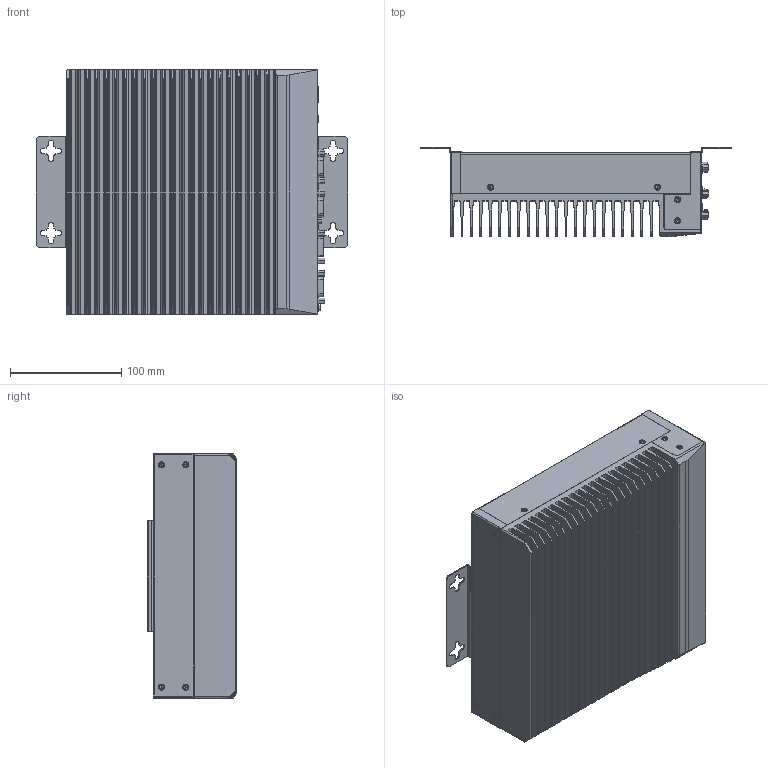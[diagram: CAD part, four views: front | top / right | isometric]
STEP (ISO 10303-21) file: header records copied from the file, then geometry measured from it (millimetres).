
FILE_DESCRIPTION (( 'STEP AP214' ), '1' );
FILE_NAME ('V326.STEP', '2023-08-18T03:24:52', ( '' ), ( '' ), 'SwSTEP 2.0', 'SolidWorks 2017', '' );
FILE_SCHEMA (( 'AUTOMOTIVE_DESIGN' ));
Length unit declared in the file: millimetre
Products named in the file (29): RXE-2100_ASM_247_ASM; COVER-SECC_45; MB-IO-1_ASM_18_ASM; 3PIN_2; DP-DP_2_ASM; GB823-88十字槽小盘头螺钉M3×5; USB-3-LAN_2; D-COM-H-9PIN_1; V326; COM-9PIN_2; USB-2_1; TOP_89; POWER-11_2; ZZJ_93; LED_2; GB／T95-2002平垫圈C级3×0．5; POWER-SWITCH-1111_2; MANIFOLD_SOLID_BREP_36774; VGA_2; AUDIO_1; 4P-POWER_3; RIGHT-COVER_34; GB_X2_FFFD_X0_T819_X2_FFFD_X0_1-2000_X2_02AEFFFD05B206F3_FFFD0377FFFD0776FFFD_X0_M3_X2_FFFDFFFD_X0_12; _X2_FFFDFFFD0138_X0_1; MB_ASM_12_ASM; IO-COVER_68; SUPPORT-SPCC_3; ZZJ_ASM_9_ASM; MANIFOLD_SOLID_BREP_36413
Assembly tree (67 placements, depth 5):
  V326
    RXE-2100_ASM_247_ASM
      TOP_89
      MB_ASM_12_ASM
        3PIN_2
        AUDIO_1
        USB-3-LAN_2  x3
        DP-DP_2_ASM
          MANIFOLD_SOLID_BREP_36413
          MANIFOLD_SOLID_BREP_36774
        VGA_2
        LED_2
        POWER-SWITCH-1111_2
        D-COM-H-9PIN_1
        POWER-11_2
      MB-IO-1_ASM_18_ASM
        COM-9PIN_2  x2
        4P-POWER_3
        USB-2_1  x2
      ZZJ_ASM_9_ASM
        ZZJ_93
      RIGHT-COVER_34
      IO-COVER_68
      COVER-SECC_45
      SUPPORT-SPCC_3  x2
    _X2_FFFDFFFD0138_X0_1  x14
    GB_X2_FFFD_X0_T819_X2_FFFD_X0_1-2000_X2_02AEFFFD05B206F3_FFFD0377FFFD0776FFFD_X0_M3_X2_FFFDFFFD_X0_12  x20
    GB／T95-2002平垫圈C级3×0．5
    GB823-88十字槽小盘头螺钉M3×5
    COM-9PIN_2  x2
Bounding box: 279.7 x 80 x 220.2 mm (x, y, z)
Volume: 881459.6 mm3; surface area: 695842.4 mm2
Topology: 62 solids, 62 shells, 3657 faces, 8790 edges, 5573 vertices
Faces by surface type: plane 1885, cylinder 1418, bspline 206, cone 112, sphere 36
Entity records: 94315 total; most frequent: CARTESIAN_POINT 27165, ORIENTED_EDGE 11060, DIRECTION 10454, EDGE_CURVE 5530, AXIS2_PLACEMENT_3D 3628, VERTEX_POINT 3596, LINE 3198, VECTOR 3198
